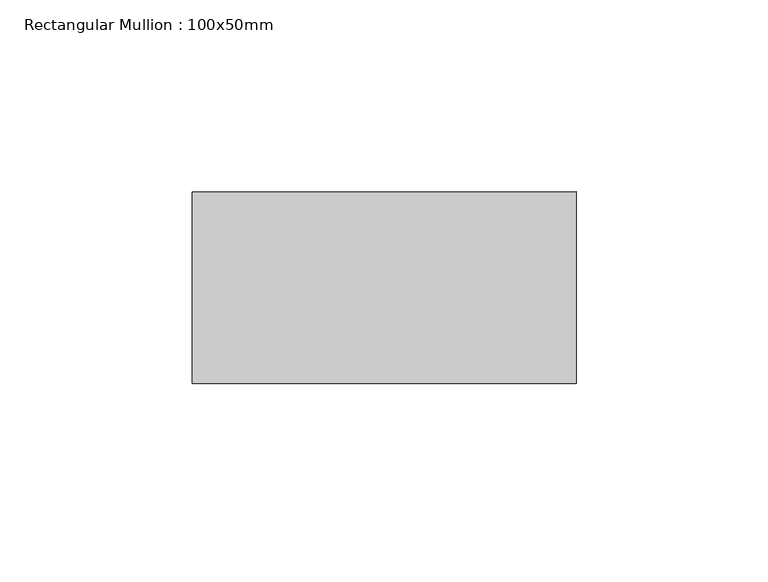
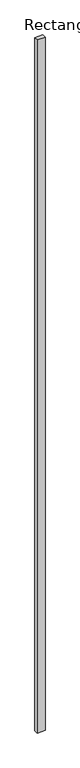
"""IFC4 building model written with IfcOpenShell, lengths in millimetres: member geometry, Rectangular Mullion : 100x50mm."""

import ifcopenshell
import ifcopenshell.guid

model = None  # the IFC model being written
_history = None  # IfcOwnerHistory: only IFC2X3 demands one
_inside = {}  # id of a spatial element -> (the spatial element, [elements in it])
_under = {}  # id of a project, library or spatial element -> (it, [spatial elements below it])
_declared = {}  # id of a project -> (the project, [libraries it declares])
_typed = {}  # id of a type object -> (the type object, [elements of that type])
_made_of = {}  # id of a material, layer set ... -> (it, [elements and type objects made of it])


def new_model(schema):
    """Start an empty IFC model of exactly this schema.

    Asked for "IFC4X3", IfcOpenShell would pick the latest addendum, in which some entities
    have other attributes; the version numbers below select the first issue.
    IFC2X3 requires an IfcOwnerHistory on every rooted entity: one is made here for all.
    """
    global model, _history
    if schema == "IFC4X3":
        model = ifcopenshell.file(schema_version=(4, 3, 0, 0))
    else:
        model = ifcopenshell.file(schema=schema)
    _inside.clear()
    _under.clear()
    _declared.clear()
    _typed.clear()
    _made_of.clear()
    _history = None
    if model.schema == "IFC2X3":
        org = make("IfcOrganization", Name="unknown")
        user = make(
            "IfcPersonAndOrganization",
            ThePerson=make("IfcPerson", FamilyName="unknown"),
            TheOrganization=org,
        )
        app = make(
            "IfcApplication",
            ApplicationDeveloper=org,
            Version="unknown",
            ApplicationFullName="unknown",
            ApplicationIdentifier="unknown",
        )
        _history = make(
            "IfcOwnerHistory",
            OwningUser=user,
            OwningApplication=app,
            ChangeAction="ADDED",
            CreationDate=0,
        )
    return model


def make(cls, **values):
    """One entity of the class cls with the attributes given. An attribute that is None is left unset."""
    return model.create_entity(
        cls, **{name: value for name, value in values.items() if value is not None}
    )


def rooted(cls, **values):
    """An entity with a GlobalId (a new one), such as an element, a storey or a relation."""
    return make(cls, GlobalId=ifcopenshell.guid.new(), OwnerHistory=_history, **values)


def si_unit(unit_type, name, prefix=None):
    """IfcSIUnit, for example si_unit("LENGTHUNIT", "METRE", prefix="MILLI")."""
    return make("IfcSIUnit", UnitType=unit_type, Prefix=prefix, Name=name)


def assignment(units):
    """IfcUnitAssignment: the units of a project."""
    return None if units is None else make("IfcUnitAssignment", Units=units)


def point(xyz):
    """IfcCartesianPoint."""
    return None if xyz is None else make("IfcCartesianPoint", Coordinates=xyz)


def direction(xyz):
    """IfcDirection."""
    return None if xyz is None else make("IfcDirection", DirectionRatios=xyz)


def frame(location, z_axis=None, x_axis=None):
    """IfcAxis2Placement3D, a coordinate frame: its origin and axes. An axis left out is left unset."""
    return make(
        "IfcAxis2Placement3D",
        Location=point(location),
        Axis=direction(z_axis),
        RefDirection=direction(x_axis),
    )


def origin():
    """The frame at (0, 0, 0) with its axes left unset."""
    return frame((0.0, 0.0, 0.0))


def place(relative_to, where):
    """IfcLocalPlacement: puts the frame where relative to a parent placement (None: the world)."""
    return make(
        "IfcLocalPlacement", PlacementRelTo=relative_to, RelativePlacement=where
    )


def context(
    kind, dimensions, precision=None, world=None, true_north=None, identifier=None
):
    """IfcGeometricRepresentationContext, for example the 3D "Model" context."""
    return make(
        "IfcGeometricRepresentationContext",
        ContextIdentifier=identifier,
        ContextType=kind,
        CoordinateSpaceDimension=dimensions,
        Precision=precision,
        WorldCoordinateSystem=world,
        TrueNorth=true_north,
    )


def project(units=None, contexts=None):
    """IfcProject with its units and contexts."""
    return rooted(
        "IfcProject",
        Name="project",
        RepresentationContexts=contexts,
        UnitsInContext=assignment(units),
    )


def spatial(cls, under=None, at=None, **own):
    """A site, building, storey or space (cls), placed at a placement, below another one or the project."""
    s = rooted(cls, ObjectPlacement=at, **own)
    if under is not None:
        _under.setdefault(under.id(), (under, []))[1].append(s)
    return s


def polyline(points):
    """IfcPolyline through the points."""
    return make("IfcPolyline", Points=[point(p) for p in points])


def outline(outer, holes=None, kind="AREA"):
    """IfcArbitraryClosedProfileDef: a profile drawn as a closed curve; with holes, ...WithVoids."""
    if holes is None:
        return make("IfcArbitraryClosedProfileDef", ProfileType=kind, OuterCurve=outer)
    return make(
        "IfcArbitraryProfileDefWithVoids",
        ProfileType=kind,
        OuterCurve=outer,
        InnerCurves=holes,
    )


def extrude(swept, where, along, depth):
    """IfcExtrudedAreaSolid: the profile swept, set in the frame where, extruded along a direction by depth."""
    return make(
        "IfcExtrudedAreaSolid",
        SweptArea=swept,
        Position=where,
        ExtrudedDirection=direction(along),
        Depth=depth,
    )


def shape(context_of_items, identifier, shape_type, items):
    """IfcShapeRepresentation: the items that make up one representation, for example the "Body"."""
    return make(
        "IfcShapeRepresentation",
        ContextOfItems=context_of_items,
        RepresentationIdentifier=identifier,
        RepresentationType=shape_type,
        Items=items,
    )


def source(mapping_origin, context_of_items, identifier, shape_type, items):
    """IfcRepresentationMap: a shape defined once, which mapped items show again and again."""
    return make(
        "IfcRepresentationMap",
        MappingOrigin=mapping_origin,
        MappedRepresentation=shape(context_of_items, identifier, shape_type, items),
    )


def transform(
    local_origin,
    x_axis=None,
    y_axis=None,
    z_axis=None,
    scale=None,
    scale2=None,
    scale3=None,
    uniform=True,
):
    """IfcCartesianTransformationOperator3D, or its non-uniform kind. x_axis, y_axis, z_axis: its Axis1, 2, 3."""
    if uniform:
        return make(
            "IfcCartesianTransformationOperator3D",
            Axis1=direction(x_axis),
            Axis2=direction(y_axis),
            LocalOrigin=point(local_origin),
            Scale=scale,
            Axis3=direction(z_axis),
        )
    return make(
        "IfcCartesianTransformationOperator3DnonUniform",
        Axis1=direction(x_axis),
        Axis2=direction(y_axis),
        LocalOrigin=point(local_origin),
        Scale=scale,
        Axis3=direction(z_axis),
        Scale2=scale2,
        Scale3=scale3,
    )


def mapped(mapping_source, mapping_target):
    """IfcMappedItem: shows the shape of a source again, moved by a transform."""
    return make(
        "IfcMappedItem", MappingSource=mapping_source, MappingTarget=mapping_target
    )


def made_of(thing, what):
    """Note that an element or type object is made of a material, layer set ...; save() writes the relation."""
    if what is not None:
        _made_of.setdefault(what.id(), (what, []))[1].append(thing)
    return thing


def element(
    cls,
    number,
    at=None,
    inside=None,
    cuts=None,
    type_object=None,
    material=None,
    context=None,
    identifier="Body",
    shape_type=None,
    held_by="IfcProductDefinitionShape",
    body=None,
    shapes=None,
    **own,
):
    """One element of the class cls, such as IfcWall. Its Tag is "e" and its number.

    at: its placement. inside: the storey or other place that contains it. cuts: it is an
    opening in that element (IfcRelVoidsElement). A single representation is given by context,
    identifier, shape_type and body (its items); several are given by shapes. held_by: the class
    of the entity that holds the representations. save() writes the other relations.
    """
    e = rooted(cls, Tag="e%d" % number, ObjectPlacement=at, **own)
    if body is not None:
        shapes = [shape(context, identifier, shape_type, body)]
    if shapes is not None:
        e.Representation = make(held_by, Representations=shapes)
    if inside is not None:
        _inside.setdefault(inside.id(), (inside, []))[1].append(e)
    if cuts is not None:
        rooted(
            "IfcRelVoidsElement", RelatingBuildingElement=cuts, RelatedOpeningElement=e
        )
    if type_object is not None:
        _typed.setdefault(type_object.id(), (type_object, []))[1].append(e)
    return made_of(e, material)


def aggregate(whole, parts):
    """IfcRelAggregates: a whole, such as a stair, and the parts it consists of."""
    return rooted("IfcRelAggregates", RelatingObject=whole, RelatedObjects=parts)


def save(model, path):
    """Write the relations noted so far, then the file.

    IfcRelAggregates (storeys below a building ...), IfcRelContainedInSpatialStructure (elements
    in a storey), IfcRelDefinesByType, IfcRelAssociatesMaterial and IfcRelDeclares: one each for
    every whole, place, type object, material and project.
    """
    for whole, parts in _under.values():
        aggregate(whole, parts)
    for where, things in _inside.values():
        rooted(
            "IfcRelContainedInSpatialStructure",
            RelatedElements=things,
            RelatingStructure=where,
        )
    for kind, things in _typed.values():
        rooted("IfcRelDefinesByType", RelatedObjects=things, RelatingType=kind)
    for what, things in _made_of.values():
        rooted("IfcRelAssociatesMaterial", RelatedObjects=things, RelatingMaterial=what)
    for by, libraries in _declared.values():
        rooted("IfcRelDeclares", RelatingContext=by, RelatedDefinitions=libraries)
    model.write(path)


def rectangular_mullion_100x50mm_4a06b2b3(model_context):
    return source(origin(), model_context, "Body", "SweptSolid", [
        extrude(outline(polyline([(0.0, 25.0), (0.0, -25.0), (-100.0, -25.0), (-100.0, 25.0), (0.0, 25.0)])), frame((0.0, 0.0, -9310.0024458), z_axis=(0.0, 0.0, 1.0), x_axis=(1.0, 0.0, 0.0)), (0.0, 0.0, 1.0), 9310.0024458),
    ])


if __name__ == "__main__":
    model = new_model("IFC4")
    model_context = context("Model", 3, world=origin())
    ifc_project = project(units=[si_unit("LENGTHUNIT", "METRE", prefix="MILLI")], contexts=[model_context])
    site = spatial("IfcSite", under=ifc_project)
    building = spatial("IfcBuilding", under=site)
    placement = place(None, origin())
    rectangular_mullion_100x50mm_shape = rectangular_mullion_100x50mm_4a06b2b3(model_context)
    element("IfcMember", 1, ObjectType="Rectangular Mullion : 100x50mm", at=placement, inside=building, context=model_context, shape_type="MappedRepresentation", body=[
        mapped(rectangular_mullion_100x50mm_shape, transform((0.0, 0.0, 0.0), x_axis=(1.0, 0.0, 0.0), y_axis=(0.0, 1.0, 0.0), z_axis=(0.0, 0.0, 1.0))),
    ])
    save(model, "model.ifc")
